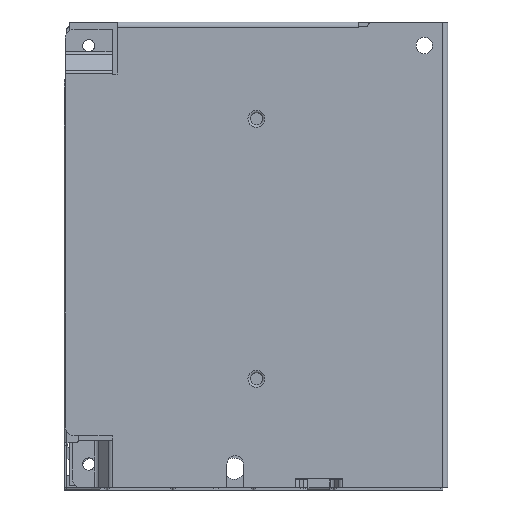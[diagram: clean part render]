
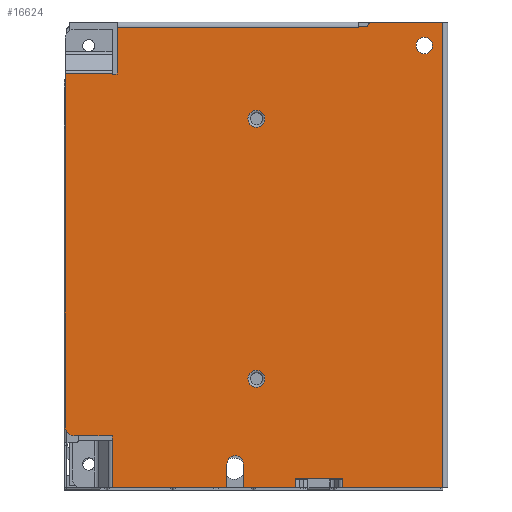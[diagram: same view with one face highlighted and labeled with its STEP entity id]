
A CAD part, front view. The second image highlights one B-rep face of the part: STEP entity #16624.
In plain terms, the highlighted planar face has unit normal (0, -1, 0).
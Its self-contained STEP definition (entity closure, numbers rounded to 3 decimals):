
#16271=CARTESIAN_POINT('',(-30.5,-1.0,38.331));
#16272=VERTEX_POINT('',#16271);
#16282=CARTESIAN_POINT('',(-30.5,-1.0,38.25));
#16283=VERTEX_POINT('',#16282);
#16284=CARTESIAN_POINT('',(-30.5,-1.0,38.331));
#16285=DIRECTION('',(0.0,0.0,-1.0));
#16286=VECTOR('',#16285,0.081);
#16287=LINE('',#16284,#16286);
#16288=EDGE_CURVE('',#16272,#16283,#16287,.T.);
#16371=CARTESIAN_POINT('',(-40.5,-1.0,38.331));
#16372=VERTEX_POINT('',#16371);
#16380=CARTESIAN_POINT('',(-30.5,-1.0,38.331));
#16381=DIRECTION('',(-1.0,0.0,0.0));
#16382=VECTOR('',#16381,10.);
#16383=LINE('',#16380,#16382);
#16384=EDGE_CURVE('',#16272,#16372,#16383,.T.);
#16389=CARTESIAN_POINT('',(0.0,-1.0,0.0));
#16390=DIRECTION('',(0.0,1.0,0.0));
#16391=DIRECTION('',(0.0,0.0,1.0));
#16392=AXIS2_PLACEMENT_3D('',#16389,#16390,#16391);
#16393=PLANE('',#16392);
#16394=ORIENTED_EDGE('',*,*,#16384,.T.);
#16395=CARTESIAN_POINT('',(-40.5,-1.0,-36.25));
#16396=VERTEX_POINT('',#16395);
#16397=CARTESIAN_POINT('',(-40.5,-1.0,38.331));
#16398=DIRECTION('',(0.0,0.0,-1.0));
#16399=VECTOR('',#16398,74.581);
#16400=LINE('',#16397,#16399);
#16401=EDGE_CURVE('',#16372,#16396,#16400,.T.);
#16402=ORIENTED_EDGE('',*,*,#16401,.T.);
#16403=CARTESIAN_POINT('',(-38.5,-1.0,-38.25));
#16404=VERTEX_POINT('',#16403);
#16405=CARTESIAN_POINT('',(-38.5,-1.0,-36.25));
#16406=DIRECTION('',(0.0,1.0,0.0));
#16407=DIRECTION('',(0.0,0.0,-1.0));
#16408=AXIS2_PLACEMENT_3D('',#16405,#16406,#16407);
#16409=CIRCLE('',#16408,2.0);
#16410=EDGE_CURVE('',#16404,#16396,#16409,.T.);
#16411=ORIENTED_EDGE('',*,*,#16410,.F.);
#16412=CARTESIAN_POINT('',(-30.5,-1.0,-38.25));
#16413=VERTEX_POINT('',#16412);
#16414=CARTESIAN_POINT('',(-30.5,-1.0,-38.25));
#16415=DIRECTION('',(-1.0,0.0,0.0));
#16416=VECTOR('',#16415,8.);
#16417=LINE('',#16414,#16416);
#16418=EDGE_CURVE('',#16413,#16404,#16417,.T.);
#16419=ORIENTED_EDGE('',*,*,#16418,.F.);
#16420=CARTESIAN_POINT('',(-30.5,-1.0,-39.25));
#16421=VERTEX_POINT('',#16420);
#16422=CARTESIAN_POINT('',(-30.5,-1.0,-39.25));
#16423=DIRECTION('',(0.0,0.0,1.0));
#16424=VECTOR('',#16423,1.0);
#16425=LINE('',#16422,#16424);
#16426=EDGE_CURVE('',#16421,#16413,#16425,.T.);
#16427=ORIENTED_EDGE('',*,*,#16426,.F.);
#16428=CARTESIAN_POINT('',(-30.5,-1.0,-49.25));
#16429=VERTEX_POINT('',#16428);
#16430=CARTESIAN_POINT('',(-30.5,-1.0,-39.25));
#16431=DIRECTION('',(0.0,0.0,-1.0));
#16432=VECTOR('',#16431,10.);
#16433=LINE('',#16430,#16432);
#16434=EDGE_CURVE('',#16421,#16429,#16433,.T.);
#16435=ORIENTED_EDGE('',*,*,#16434,.T.);
#16436=CARTESIAN_POINT('',(-6.25,-1.0,-49.25));
#16437=VERTEX_POINT('',#16436);
#16438=CARTESIAN_POINT('',(-30.5,-1.0,-49.25));
#16439=DIRECTION('',(1.0,0.0,0.0));
#16440=VECTOR('',#16439,24.25);
#16441=LINE('',#16438,#16440);
#16442=EDGE_CURVE('',#16429,#16437,#16441,.T.);
#16443=ORIENTED_EDGE('',*,*,#16442,.T.);
#16444=CARTESIAN_POINT('',(-6.25,-1.0,-44.25));
#16445=VERTEX_POINT('',#16444);
#16446=CARTESIAN_POINT('',(-6.25,-1.0,-44.25));
#16447=DIRECTION('',(0.0,0.0,-1.0));
#16448=VECTOR('',#16447,5.);
#16449=LINE('',#16446,#16448);
#16450=EDGE_CURVE('',#16445,#16437,#16449,.T.);
#16451=ORIENTED_EDGE('',*,*,#16450,.F.);
#16452=CARTESIAN_POINT('',(-2.75,-1.0,-44.25));
#16453=VERTEX_POINT('',#16452);
#16454=CARTESIAN_POINT('',(-4.5,-1.0,-44.25));
#16455=DIRECTION('',(0.0,-1.0,0.0));
#16456=DIRECTION('',(1.0,0.0,0.));
#16457=AXIS2_PLACEMENT_3D('',#16454,#16455,#16456);
#16458=CIRCLE('',#16457,1.75);
#16459=EDGE_CURVE('',#16453,#16445,#16458,.T.);
#16460=ORIENTED_EDGE('',*,*,#16459,.F.);
#16461=CARTESIAN_POINT('',(-2.75,-1.0,-49.25));
#16462=VERTEX_POINT('',#16461);
#16463=CARTESIAN_POINT('',(-2.75,-1.0,-44.25));
#16464=DIRECTION('',(0.0,0.0,-1.0));
#16465=VECTOR('',#16464,5.);
#16466=LINE('',#16463,#16465);
#16467=EDGE_CURVE('',#16453,#16462,#16466,.T.);
#16468=ORIENTED_EDGE('',*,*,#16467,.T.);
#16469=CARTESIAN_POINT('',(8.25,-1.0,-49.25));
#16470=VERTEX_POINT('',#16469);
#16471=CARTESIAN_POINT('',(-2.75,-1.0,-49.25));
#16472=DIRECTION('',(1.0,0.0,0.0));
#16473=VECTOR('',#16472,11.);
#16474=LINE('',#16471,#16473);
#16475=EDGE_CURVE('',#16462,#16470,#16474,.T.);
#16476=ORIENTED_EDGE('',*,*,#16475,.T.);
#16477=CARTESIAN_POINT('',(8.25,-1.0,-47.45));
#16478=VERTEX_POINT('',#16477);
#16479=CARTESIAN_POINT('',(8.25,-1.0,-49.25));
#16480=DIRECTION('',(0.0,0.0,1.0));
#16481=VECTOR('',#16480,1.8);
#16482=LINE('',#16479,#16481);
#16483=EDGE_CURVE('',#16470,#16478,#16482,.T.);
#16484=ORIENTED_EDGE('',*,*,#16483,.T.);
#16485=CARTESIAN_POINT('',(8.25,-1.0,-47.25));
#16486=VERTEX_POINT('',#16485);
#16487=CARTESIAN_POINT('',(8.25,-1.0,-47.25));
#16488=DIRECTION('',(0.0,0.0,-1.0));
#16489=VECTOR('',#16488,0.2);
#16490=LINE('',#16487,#16489);
#16491=EDGE_CURVE('',#16486,#16478,#16490,.T.);
#16492=ORIENTED_EDGE('',*,*,#16491,.F.);
#16493=CARTESIAN_POINT('',(18.25,-1.0,-47.25));
#16494=VERTEX_POINT('',#16493);
#16495=CARTESIAN_POINT('',(8.25,-1.0,-47.25));
#16496=DIRECTION('',(1.0,0.0,0.0));
#16497=VECTOR('',#16496,10.0);
#16498=LINE('',#16495,#16497);
#16499=EDGE_CURVE('',#16486,#16494,#16498,.T.);
#16500=ORIENTED_EDGE('',*,*,#16499,.T.);
#16501=CARTESIAN_POINT('',(18.25,-1.0,-47.45));
#16502=VERTEX_POINT('',#16501);
#16503=CARTESIAN_POINT('',(18.25,-1.0,-47.25));
#16504=DIRECTION('',(0.0,0.0,-1.0));
#16505=VECTOR('',#16504,0.2);
#16506=LINE('',#16503,#16505);
#16507=EDGE_CURVE('',#16494,#16502,#16506,.T.);
#16508=ORIENTED_EDGE('',*,*,#16507,.T.);
#16509=CARTESIAN_POINT('',(18.25,-1.0,-49.25));
#16510=VERTEX_POINT('',#16509);
#16511=CARTESIAN_POINT('',(18.25,-1.0,-47.45));
#16512=DIRECTION('',(0.0,0.0,-1.0));
#16513=VECTOR('',#16512,1.8);
#16514=LINE('',#16511,#16513);
#16515=EDGE_CURVE('',#16502,#16510,#16514,.T.);
#16516=ORIENTED_EDGE('',*,*,#16515,.T.);
#16517=CARTESIAN_POINT('',(39.4,-1.0,-49.25));
#16518=VERTEX_POINT('',#16517);
#16519=CARTESIAN_POINT('',(18.25,-1.0,-49.25));
#16520=DIRECTION('',(1.0,0.0,0.0));
#16521=VECTOR('',#16520,21.15);
#16522=LINE('',#16519,#16521);
#16523=EDGE_CURVE('',#16510,#16518,#16522,.T.);
#16524=ORIENTED_EDGE('',*,*,#16523,.T.);
#16525=CARTESIAN_POINT('',(39.4,-1.0,49.25));
#16526=VERTEX_POINT('',#16525);
#16527=CARTESIAN_POINT('',(39.4,-1.0,-49.25));
#16528=DIRECTION('',(0.0,0.0,1.0));
#16529=VECTOR('',#16528,98.5);
#16530=LINE('',#16527,#16529);
#16531=EDGE_CURVE('',#16518,#16526,#16530,.T.);
#16532=ORIENTED_EDGE('',*,*,#16531,.T.);
#16533=CARTESIAN_POINT('',(24.5,-1.0,49.25));
#16534=VERTEX_POINT('',#16533);
#16535=CARTESIAN_POINT('',(39.4,-1.0,49.25));
#16536=DIRECTION('',(-1.0,0.0,0.0));
#16537=VECTOR('',#16536,14.9);
#16538=LINE('',#16535,#16537);
#16539=EDGE_CURVE('',#16526,#16534,#16538,.T.);
#16540=ORIENTED_EDGE('',*,*,#16539,.T.);
#16541=CARTESIAN_POINT('',(23.5,-1.0,48.25));
#16542=VERTEX_POINT('',#16541);
#16543=CARTESIAN_POINT('',(24.5,-1.0,48.25));
#16544=DIRECTION('',(0.0,1.0,0.0));
#16545=DIRECTION('',(-1.0,0.0,0.0));
#16546=AXIS2_PLACEMENT_3D('',#16543,#16544,#16545);
#16547=CIRCLE('',#16546,1.0);
#16548=EDGE_CURVE('',#16542,#16534,#16547,.T.);
#16549=ORIENTED_EDGE('',*,*,#16548,.F.);
#16550=CARTESIAN_POINT('',(21.5,-1.0,48.25));
#16551=VERTEX_POINT('',#16550);
#16552=CARTESIAN_POINT('',(23.5,-1.0,48.25));
#16553=DIRECTION('',(-1.0,0.0,0.0));
#16554=VECTOR('',#16553,2.0);
#16555=LINE('',#16552,#16554);
#16556=EDGE_CURVE('',#16542,#16551,#16555,.T.);
#16557=ORIENTED_EDGE('',*,*,#16556,.T.);
#16558=CARTESIAN_POINT('',(21.5,-1.0,48.15));
#16559=VERTEX_POINT('',#16558);
#16560=CARTESIAN_POINT('',(21.5,-1.0,48.25));
#16561=DIRECTION('',(0.0,0.0,-1.0));
#16562=VECTOR('',#16561,0.1);
#16563=LINE('',#16560,#16562);
#16564=EDGE_CURVE('',#16551,#16559,#16563,.T.);
#16565=ORIENTED_EDGE('',*,*,#16564,.T.);
#16566=CARTESIAN_POINT('',(-29.5,-1.0,48.15));
#16567=VERTEX_POINT('',#16566);
#16568=CARTESIAN_POINT('',(21.5,-1.0,48.15));
#16569=DIRECTION('',(-1.0,0.0,0.0));
#16570=VECTOR('',#16569,51.0);
#16571=LINE('',#16568,#16570);
#16572=EDGE_CURVE('',#16559,#16567,#16571,.T.);
#16573=ORIENTED_EDGE('',*,*,#16572,.T.);
#16574=CARTESIAN_POINT('',(-29.5,-1.0,38.25));
#16575=VERTEX_POINT('',#16574);
#16576=CARTESIAN_POINT('',(-29.5,-1.0,38.25));
#16577=DIRECTION('',(0.0,0.0,1.0));
#16578=VECTOR('',#16577,9.9);
#16579=LINE('',#16576,#16578);
#16580=EDGE_CURVE('',#16575,#16567,#16579,.T.);
#16581=ORIENTED_EDGE('',*,*,#16580,.F.);
#16582=CARTESIAN_POINT('',(-30.5,-1.0,38.25));
#16583=DIRECTION('',(1.0,0.0,0.0));
#16584=VECTOR('',#16583,1.0);
#16585=LINE('',#16582,#16584);
#16586=EDGE_CURVE('',#16283,#16575,#16585,.T.);
#16587=ORIENTED_EDGE('',*,*,#16586,.F.);
#16588=ORIENTED_EDGE('',*,*,#16288,.F.);
#16589=EDGE_LOOP('',(#16394,#16402,#16411,#16419,#16427,#16435,#16443,#16451,#16460,#16468,#16476,#16484,#16492,#16500,#16508,#16516,#16524,#16532,#16540,#16549,#16557,#16565,#16573,#16581,#16587,#16588));
#16590=FACE_OUTER_BOUND('',#16589,.T.);
#16591=CARTESIAN_POINT('',(1.8,-1.0,-26.25));
#16592=VERTEX_POINT('',#16591);
#16593=CARTESIAN_POINT('',(0.0,-1.0,-26.25));
#16594=DIRECTION('',(0.0,-1.0,0.0));
#16595=DIRECTION('',(-1.0,0.0,0.0));
#16596=AXIS2_PLACEMENT_3D('',#16593,#16594,#16595);
#16597=CIRCLE('',#16596,1.8);
#16598=EDGE_CURVE('',#16592,#16592,#16597,.T.);
#16599=ORIENTED_EDGE('',*,*,#16598,.F.);
#16600=EDGE_LOOP('',(#16599));
#16601=FACE_BOUND('',#16600,.T.);
#16602=CARTESIAN_POINT('',(-1.8,-1.0,28.75));
#16603=VERTEX_POINT('',#16602);
#16604=CARTESIAN_POINT('',(0.0,-1.0,28.75));
#16605=DIRECTION('',(0.0,-1.0,0.0));
#16606=DIRECTION('',(1.0,0.0,0.0));
#16607=AXIS2_PLACEMENT_3D('',#16604,#16605,#16606);
#16608=CIRCLE('',#16607,1.8);
#16609=EDGE_CURVE('',#16603,#16603,#16608,.T.);
#16610=ORIENTED_EDGE('',*,*,#16609,.F.);
#16611=EDGE_LOOP('',(#16610));
#16612=FACE_BOUND('',#16611,.T.);
#16613=CARTESIAN_POINT('',(37.25,-1.0,44.25));
#16614=VERTEX_POINT('',#16613);
#16615=CARTESIAN_POINT('',(35.5,-1.0,44.25));
#16616=DIRECTION('',(0.0,-1.0,0.0));
#16617=DIRECTION('',(1.0,0.0,0.0));
#16618=AXIS2_PLACEMENT_3D('',#16615,#16616,#16617);
#16619=CIRCLE('',#16618,1.75);
#16620=EDGE_CURVE('',#16614,#16614,#16619,.T.);
#16621=ORIENTED_EDGE('',*,*,#16620,.F.);
#16622=EDGE_LOOP('',(#16621));
#16623=FACE_BOUND('',#16622,.T.);
#16624=ADVANCED_FACE('',(#16590,#16601,#16612,#16623),#16393,.F.);
